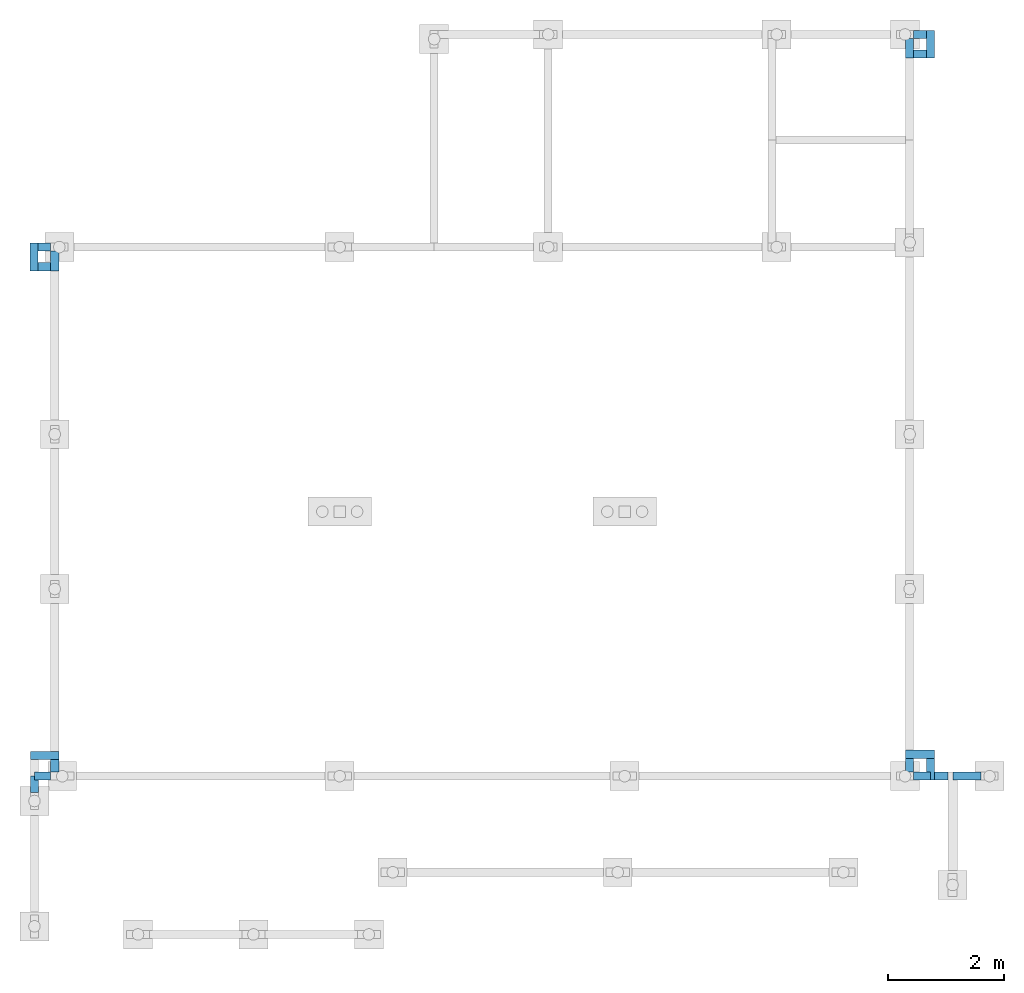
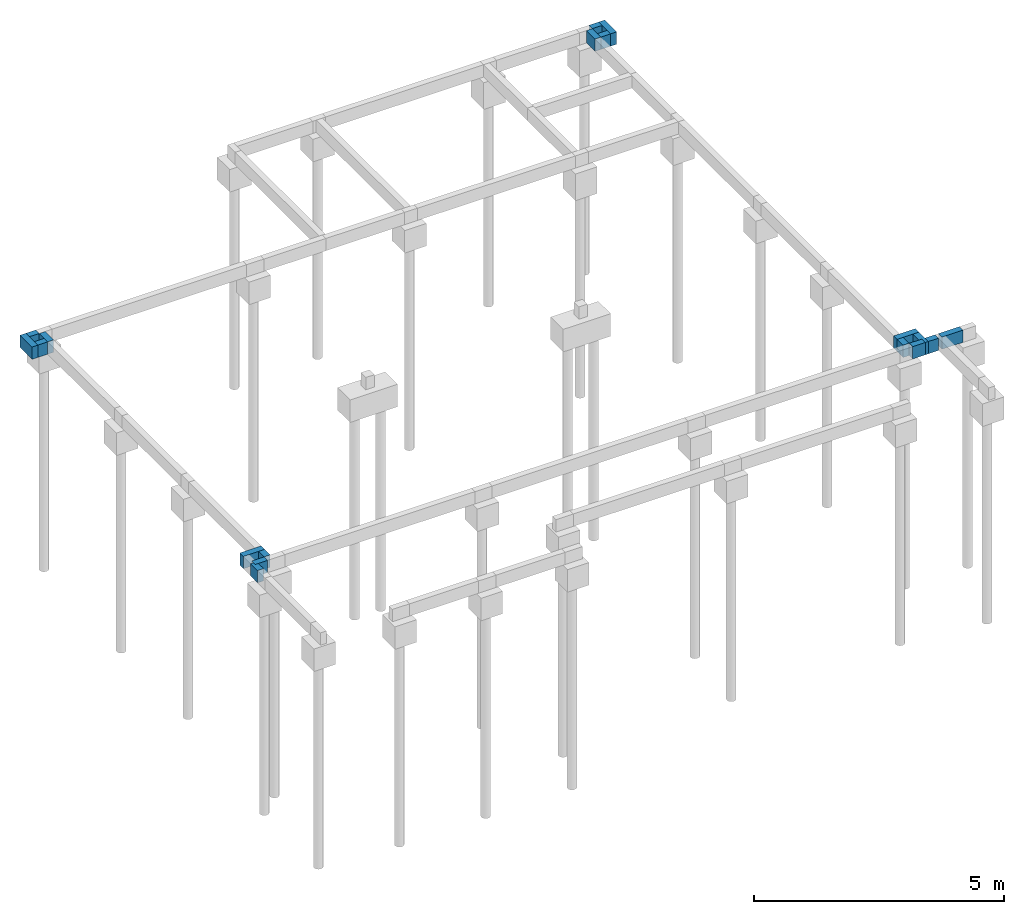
# One storey, part 2 of 2: 18 beams.
"""IFC4 building model written with IfcOpenShell, lengths in centimetres."""

from ifc_helpers import new_model, si_unit, derived_unit, frame, origin_with_axes, origin_2d_with_axis, place, context, project, spatial, rectangle, extrude, material, element, save


model = new_model("IFC4")

# Units and contexts
model_context = context("Model", 3, precision=1e-05, world=origin_with_axes(), identifier="Body")
ifc_project = project(units=[si_unit("LENGTHUNIT", "METRE", prefix="CENTI"), si_unit("VOLUMEUNIT", "CUBIC_METRE"), si_unit("AREAUNIT", "SQUARE_METRE"), si_unit("POWERUNIT", "WATT"), si_unit("LUMINOUSFLUXUNIT", "LUMEN"), si_unit("ELECTRICCURRENTUNIT", "AMPERE"), si_unit("PRESSUREUNIT", "PASCAL", prefix="KILO"), si_unit("MASSUNIT", "GRAM", prefix="KILO"), si_unit("PLANEANGLEUNIT", "RADIAN"), derived_unit("VOLUMETRICFLOWRATEUNIT", [(si_unit("LENGTHUNIT", "METRE"), 3), (si_unit("TIMEUNIT", "SECOND"), -1)])], contexts=[model_context])

# Site, building, storey
site_placement = place(None, origin_with_axes())
site = spatial("IfcSite", under=ifc_project, at=site_placement)
building_placement = place(site_placement, frame((0.0, 0.0, 24.0)))
building = spatial("IfcBuilding", under=site, at=building_placement)
storey_placement = place(building_placement, origin_with_axes())
storey = spatial("IfcBuildingStorey", under=building, at=storey_placement, Name="BALDRAME-FUNDAÇÃO", CompositionType="ELEMENT", Elevation=24.0)

# Beams
ifc_material = material(Name="Concreto")
beam_1_placement = place(storey_placement, frame((1522.185, 1563.0, 0.0), z_axis=(0.0, 0.0, 1.0), x_axis=(1.0, 0.0, 0.0)))
element("IfcBeam", 1, at=beam_1_placement, inside=storey, material=ifc_material, Name="V1", context=model_context, shape_type="SolidModel", body=[
    extrude(rectangle(XDim=14.0, YDim=30.0, at=origin_2d_with_axis()), frame((-11.005, 0.0, -15.0), z_axis=(1.0, 0.0, 0.0), x_axis=(0.0, 1.0, 0.0)), (0.0, 0.0, 1.0), 22.01),
])
beam_2_placement = place(storey_placement, frame((1504.18, 1539.0, 0.0), z_axis=(0.0, 0.0, 1.0), x_axis=(1.0, 0.0, 0.0)))
element("IfcBeam", 2, at=beam_2_placement, inside=storey, material=ifc_material, Name="V11", context=model_context, shape_type="SolidModel", body=[
    extrude(rectangle(XDim=14.0, YDim=30.0, at=origin_2d_with_axis()), frame((0.0, -17.0, -15.0), z_axis=(0.0, 1.0, 0.0), x_axis=(1.0, 0.0, 0.0)), (0.0, 0.0, 1.0), 34.0),
])
beam_3_placement = place(storey_placement, frame((1504.18, 300.0, 0.0), z_axis=(0.0, 0.0, 1.0), x_axis=(1.0, 0.0, 0.0)))
element("IfcBeam", 3, at=beam_3_placement, inside=storey, material=ifc_material, Name="V11", context=model_context, shape_type="SolidModel", body=[
    extrude(rectangle(XDim=14.0, YDim=30.0, at=origin_2d_with_axis()), frame((0.0, -12.0, -15.0), z_axis=(0.0, 1.0, 0.0), x_axis=(1.0, 0.0, 0.0)), (0.0, 0.0, 1.0), 24.0),
])
beam_4_placement = place(storey_placement, frame((1522.185, 1529.0, 0.0), z_axis=(0.0, 0.0, 1.0), x_axis=(1.0, 0.0, 0.0)))
element("IfcBeam", 4, at=beam_4_placement, inside=storey, material=ifc_material, Name="V13", context=model_context, shape_type="SolidModel", body=[
    extrude(rectangle(XDim=14.0, YDim=30.0, at=origin_2d_with_axis()), frame((-11.005, 0.0, -15.0), z_axis=(1.0, 0.0, 0.0), x_axis=(0.0, 1.0, 0.0)), (0.0, 0.0, 1.0), 22.01),
])
beam_5_placement = place(storey_placement, frame((1540.19, 1546.0, 0.0), z_axis=(0.0, 0.0, 1.0), x_axis=(1.0, 0.0, 0.0)))
element("IfcBeam", 5, at=beam_5_placement, inside=storey, material=ifc_material, Name="V13", context=model_context, shape_type="SolidModel", body=[
    extrude(rectangle(XDim=14.0, YDim=30.0, at=origin_2d_with_axis()), frame((0.0, -24.0, -15.0), z_axis=(0.0, 1.0, 0.0), x_axis=(1.0, 0.0, 0.0)), (0.0, 0.0, 1.0), 48.0),
])
beam_6_placement = place(storey_placement, frame((8.5, 1161.52, 0.0), z_axis=(0.0, 0.0, 1.0), x_axis=(1.0, 0.0, 0.0)))
element("IfcBeam", 6, at=beam_6_placement, inside=storey, material=ifc_material, Name="V14", context=model_context, shape_type="SolidModel", body=[
    extrude(rectangle(XDim=14.0, YDim=30.0, at=origin_2d_with_axis()), frame((11.0, 0.0, -15.0), z_axis=(-1.0, 0.0, 0.0), x_axis=(0.0, 1.0, 0.0)), (0.0, 0.0, 1.0), 22.0),
])
beam_7_placement = place(storey_placement, frame((-9.5, 1178.52, 0.0), z_axis=(0.0, 0.0, 1.0), x_axis=(1.0, 0.0, 0.0)))
element("IfcBeam", 7, at=beam_7_placement, inside=storey, material=ifc_material, Name="V14", context=model_context, shape_type="SolidModel", body=[
    extrude(rectangle(XDim=14.0, YDim=30.0, at=origin_2d_with_axis()), frame((0.0, -24.0, -15.0), z_axis=(0.0, 1.0, 0.0), x_axis=(-1.0, 0.0, 0.0)), (0.0, 0.0, 1.0), 48.0),
])
beam_8_placement = place(storey_placement, frame((1540.19, 293.0, 0.0), z_axis=(0.0, 0.0, 1.0), x_axis=(1.0, 0.0, 0.0)))
element("IfcBeam", 8, at=beam_8_placement, inside=storey, material=ifc_material, Name="V15", context=model_context, shape_type="SolidModel", body=[
    extrude(rectangle(XDim=14.0, YDim=30.0, at=origin_2d_with_axis()), frame((0.0, 19.0, -15.0), z_axis=(0.0, -1.0, 0.0), x_axis=(1.0, 0.0, 0.0)), (0.0, 0.0, 1.0), 38.0),
])
beam_9_placement = place(storey_placement, frame((1522.185, 319.0, 0.0), z_axis=(0.0, 0.0, 1.0), x_axis=(1.0, 0.0, 0.0)))
element("IfcBeam", 9, at=beam_9_placement, inside=storey, material=ifc_material, Name="V15", context=model_context, shape_type="SolidModel", body=[
    extrude(rectangle(XDim=14.0, YDim=30.0, at=origin_2d_with_axis()), frame((-25.005, 0.0, -15.0), z_axis=(1.0, 0.0, 0.0), x_axis=(0.0, 1.0, 0.0)), (0.0, 0.0, 1.0), 50.01),
])
beam_10_placement = place(storey_placement, frame((9.0, 317.005, 0.0), z_axis=(0.0, 0.0, 1.0), x_axis=(1.0, 0.0, 0.0)))
element("IfcBeam", 10, at=beam_10_placement, inside=storey, material=ifc_material, Name="V16", context=model_context, shape_type="SolidModel", body=[
    extrude(rectangle(XDim=14.0, YDim=30.0, at=origin_2d_with_axis()), frame((-24.502, 0.007000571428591, -15.0), z_axis=(1.0, -0.000285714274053, 0.0), x_axis=(0.000285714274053, 1.0, 0.0)), (0.0, 0.0, 1.0), 49.004002),
])
beam_11_placement = place(storey_placement, frame((-8.5, 267.065, 0.0), z_axis=(0.0, 0.0, 1.0), x_axis=(1.0, 0.0, 0.0)))
element("IfcBeam", 11, at=beam_11_placement, inside=storey, material=ifc_material, Name="V16", context=model_context, shape_type="SolidModel", body=[
    extrude(rectangle(XDim=14.0, YDim=30.0, at=origin_2d_with_axis()), frame((0.0, -13.935, -15.0), z_axis=(0.0, 1.0, 0.0), x_axis=(-1.0, 0.0, 0.0)), (0.0, 0.0, 1.0), 27.87),
])
beam_12_placement = place(storey_placement, frame((8.5, 1195.52, 0.0), z_axis=(0.0, 0.0, 1.0), x_axis=(1.0, 0.0, 0.0)))
element("IfcBeam", 12, at=beam_12_placement, inside=storey, material=ifc_material, Name="V3", context=model_context, shape_type="SolidModel", body=[
    extrude(rectangle(XDim=14.0, YDim=30.0, at=origin_2d_with_axis()), frame((-11.0, 0.0, -15.0), z_axis=(1.0, 0.0, 0.0), x_axis=(0.0, 1.0, 0.0)), (0.0, 0.0, 1.0), 22.0),
])
beam_13_placement = place(storey_placement, frame((1525.685, 281.0, 0.0), z_axis=(0.0, 0.0, 1.0), x_axis=(1.0, 0.0, 0.0)))
element("IfcBeam", 13, at=beam_13_placement, inside=storey, material=ifc_material, Name="V4", context=model_context, shape_type="SolidModel", body=[
    extrude(rectangle(XDim=14.0, YDim=30.0, at=origin_2d_with_axis()), frame((-14.505, 0.0, -15.0), z_axis=(1.0, 0.0, 0.0), x_axis=(0.0, 1.0, 0.0)), (0.0, 0.0, 1.0), 29.01),
])
beam_14_placement = place(storey_placement, frame((1558.96, 281.0, 0.0), z_axis=(0.0, 0.0, 1.0), x_axis=(1.0, 0.0, 0.0)))
element("IfcBeam", 14, at=beam_14_placement, inside=storey, material=ifc_material, Name="V4", context=model_context, shape_type="SolidModel", body=[
    extrude(rectangle(XDim=14.0, YDim=30.0, at=origin_2d_with_axis()), frame((-11.77, 0.0, -15.0), z_axis=(1.0, 0.0, 0.0), x_axis=(0.0, 1.0, 0.0)), (0.0, 0.0, 1.0), 23.54),
])
beam_15_placement = place(storey_placement, frame((5.5, 281.0, 0.0), z_axis=(0.0, 0.0, 1.0), x_axis=(1.0, 0.0, 0.0)))
element("IfcBeam", 15, at=beam_15_placement, inside=storey, material=ifc_material, Name="V4", context=model_context, shape_type="SolidModel", body=[
    extrude(rectangle(XDim=14.0, YDim=30.0, at=origin_2d_with_axis()), frame((-14.0, 0.0, -15.0), z_axis=(1.0, 0.0, 0.0), x_axis=(0.0, 1.0, 0.0)), (0.0, 0.0, 1.0), 28.0),
])
beam_16_placement = place(storey_placement, frame((1602.98, 281.0, 0.0), z_axis=(0.0, 0.0, 1.0), x_axis=(1.0, 0.0, 0.0)))
element("IfcBeam", 16, at=beam_16_placement, inside=storey, material=ifc_material, Name="V4", context=model_context, shape_type="SolidModel", body=[
    extrude(rectangle(XDim=14.0, YDim=30.0, at=origin_2d_with_axis()), frame((-24.25, 0.0, -15.0), z_axis=(1.0, 0.0, 0.0), x_axis=(0.0, 1.0, 0.0)), (0.0, 0.0, 1.0), 48.5),
])
beam_17_placement = place(storey_placement, frame((26.5, 299.0009998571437, 0.0), z_axis=(0.0, 0.0, 1.0), x_axis=(1.0, 0.0, 0.0)))
element("IfcBeam", 17, at=beam_17_placement, inside=storey, material=ifc_material, Name="V7", context=model_context, shape_type="SolidModel", body=[
    extrude(rectangle(XDim=14.0, YDim=30.0, at=origin_2d_with_axis()), frame((0.0, -11.00099985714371, -15.0), z_axis=(0.0, 1.0, 0.0), x_axis=(-1.0, 0.0, 0.0)), (0.0, 0.0, 1.0), 22.00199971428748),
])
beam_18_placement = place(storey_placement, frame((26.5, 1171.52, 0.0), z_axis=(0.0, 0.0, 1.0), x_axis=(1.0, 0.0, 0.0)))
element("IfcBeam", 18, at=beam_18_placement, inside=storey, material=ifc_material, Name="V7", context=model_context, shape_type="SolidModel", body=[
    extrude(rectangle(XDim=14.0, YDim=30.0, at=origin_2d_with_axis()), frame((0.0, -17.0, -15.0), z_axis=(0.0, 1.0, 0.0), x_axis=(-1.0, 0.0, 0.0)), (0.0, 0.0, 1.0), 34.0),
])

save(model, "model.ifc")
